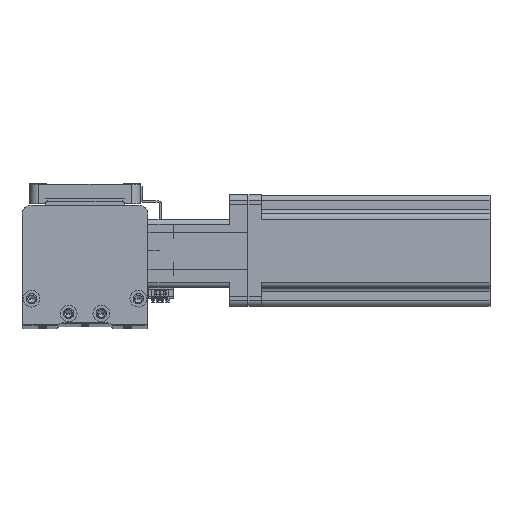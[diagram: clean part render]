
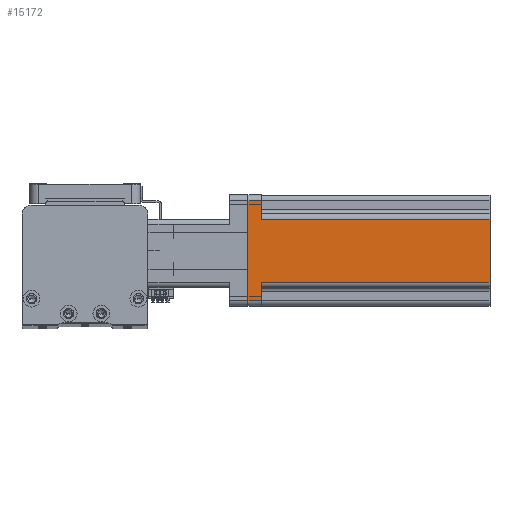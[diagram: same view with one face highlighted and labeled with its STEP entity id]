
A CAD part, top view. The second image highlights one B-rep face of the part: STEP entity #15172.
In plain terms, the highlighted planar face has unit normal (0, 0, 1) as drawn and (1, 0, 0) by its records, which use the part's own axes.
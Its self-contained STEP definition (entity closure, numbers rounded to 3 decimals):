
#266 = DIRECTION ( 'NONE',  ( 0., 0., 1. ) ) ;
#564 = DIRECTION ( 'NONE',  ( 0., 1., 0. ) ) ;
#806 = CARTESIAN_POINT ( 'NONE',  ( 30., -27., 0. ) ) ;
#1405 = VERTEX_POINT ( 'NONE', #12299 ) ;
#2092 = ORIENTED_EDGE ( 'NONE', *, *, #36706, .T. ) ;
#2931 = FACE_OUTER_BOUND ( 'NONE', #19289, .T. ) ;
#2948 = VECTOR ( 'NONE', #26531, 1000. ) ;
#4183 = DIRECTION ( 'NONE',  ( 0., 1., 0. ) ) ;
#4255 = CARTESIAN_POINT ( 'NONE',  ( 30., 17., 130.7 ) ) ;
#4777 = EDGE_CURVE ( 'NONE', #22915, #1405, #37221, .T. ) ;
#5501 = ORIENTED_EDGE ( 'NONE', *, *, #19583, .T. ) ;
#5631 = PLANE ( 'NONE',  #12105 ) ;
#6103 = VECTOR ( 'NONE', #32015, 1000. ) ;
#7083 = CARTESIAN_POINT ( 'NONE',  ( 30., -30., 130.7 ) ) ;
#7777 = CARTESIAN_POINT ( 'NONE',  ( 30., -30., 0. ) ) ;
#8623 = CARTESIAN_POINT ( 'NONE',  ( 30., 27., 0. ) ) ;
#9318 = VECTOR ( 'NONE', #4183, 1000. ) ;
#10803 = CARTESIAN_POINT ( 'NONE',  ( 30., -17., 130.7 ) ) ;
#11096 = ORIENTED_EDGE ( 'NONE', *, *, #4777, .F. ) ;
#11326 = CARTESIAN_POINT ( 'NONE',  ( 30., 30., 7.5 ) ) ;
#11354 = LINE ( 'NONE', #33522, #2948 ) ;
#12105 = AXIS2_PLACEMENT_3D ( 'NONE', #34320, #12985, #37922 ) ;
#12152 = VERTEX_POINT ( 'NONE', #29041 ) ;
#12221 = LINE ( 'NONE', #34996, #30086 ) ;
#12299 = CARTESIAN_POINT ( 'NONE',  ( 30., 27., 7.5 ) ) ;
#12985 = DIRECTION ( 'NONE',  ( -1., 0., 0. ) ) ;
#13825 = EDGE_CURVE ( 'NONE', #20967, #43679, #45022, .T. ) ;
#14495 = CARTESIAN_POINT ( 'NONE',  ( 30., 17., 130.7 ) ) ;
#15172 = ADVANCED_FACE ( 'NONE', ( #2931 ), #5631, .F. ) ;
#15672 = CARTESIAN_POINT ( 'NONE',  ( 30., -17., 7.5 ) ) ;
#17252 = DIRECTION ( 'NONE',  ( 0., 0., 1. ) ) ;
#19289 = EDGE_LOOP ( 'NONE', ( #30654, #5501, #23439, #23733, #23223, #2092, #11096, #44372 ) ) ;
#19583 = EDGE_CURVE ( 'NONE', #24514, #27979, #45716, .T. ) ;
#20967 = VERTEX_POINT ( 'NONE', #806 ) ;
#22915 = VERTEX_POINT ( 'NONE', #27332 ) ;
#23223 = ORIENTED_EDGE ( 'NONE', *, *, #13825, .T. ) ;
#23439 = ORIENTED_EDGE ( 'NONE', *, *, #26774, .T. ) ;
#23733 = ORIENTED_EDGE ( 'NONE', *, *, #24083, .T. ) ;
#24021 = EDGE_CURVE ( 'NONE', #22915, #27845, #45769, .T. ) ;
#24083 = EDGE_CURVE ( 'NONE', #12152, #20967, #44673, .T. ) ;
#24433 = EDGE_CURVE ( 'NONE', #24514, #27845, #25116, .T. ) ;
#24514 = VERTEX_POINT ( 'NONE', #10803 ) ;
#25116 = LINE ( 'NONE', #7083, #6103 ) ;
#25737 = VECTOR ( 'NONE', #43320, 1000. ) ;
#26531 = DIRECTION ( 'NONE',  ( 0., -1., 0. ) ) ;
#26774 = EDGE_CURVE ( 'NONE', #27979, #12152, #11354, .T. ) ;
#27332 = CARTESIAN_POINT ( 'NONE',  ( 30., 17., 7.5 ) ) ;
#27845 = VERTEX_POINT ( 'NONE', #4255 ) ;
#27979 = VERTEX_POINT ( 'NONE', #15672 ) ;
#29041 = CARTESIAN_POINT ( 'NONE',  ( 30., -27., 7.5 ) ) ;
#29524 = DIRECTION ( 'NONE',  ( 0., 0., -1. ) ) ;
#30086 = VECTOR ( 'NONE', #17252, 1000. ) ;
#30654 = ORIENTED_EDGE ( 'NONE', *, *, #24433, .F. ) ;
#32015 = DIRECTION ( 'NONE',  ( 0., 1., 0. ) ) ;
#33522 = CARTESIAN_POINT ( 'NONE',  ( 30., -30., 7.5 ) ) ;
#34320 = CARTESIAN_POINT ( 'NONE',  ( 30., -30., 130.7 ) ) ;
#34996 = CARTESIAN_POINT ( 'NONE',  ( 30., 27., 130.7 ) ) ;
#36146 = CARTESIAN_POINT ( 'NONE',  ( 30., -27., 130.7 ) ) ;
#36263 = VECTOR ( 'NONE', #29524, 1000. ) ;
#36320 = VECTOR ( 'NONE', #266, 1000. ) ;
#36706 = EDGE_CURVE ( 'NONE', #43679, #1405, #12221, .T. ) ;
#37221 = LINE ( 'NONE', #11326, #45557 ) ;
#37922 = DIRECTION ( 'NONE',  ( 0., 0., 1. ) ) ;
#40091 = CARTESIAN_POINT ( 'NONE',  ( 30., -17., 7.5 ) ) ;
#43320 = DIRECTION ( 'NONE',  ( 0., 0., -1. ) ) ;
#43679 = VERTEX_POINT ( 'NONE', #8623 ) ;
#44372 = ORIENTED_EDGE ( 'NONE', *, *, #24021, .T. ) ;
#44673 = LINE ( 'NONE', #36146, #25737 ) ;
#45022 = LINE ( 'NONE', #7777, #9318 ) ;
#45557 = VECTOR ( 'NONE', #564, 1000. ) ;
#45716 = LINE ( 'NONE', #40091, #36263 ) ;
#45769 = LINE ( 'NONE', #14495, #36320 ) ;
